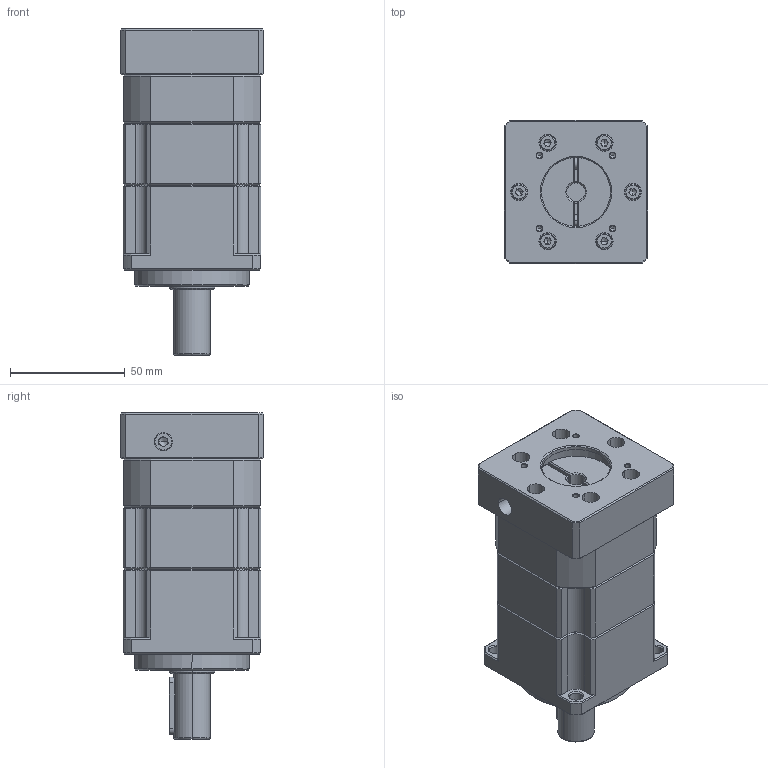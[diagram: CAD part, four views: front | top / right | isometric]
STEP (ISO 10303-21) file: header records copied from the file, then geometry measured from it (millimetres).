
FILE_DESCRIPTION (( 'STEP AP214' ), '1' );
FILE_NAME ('ZPB060-D16-L2-P1-8-30-45-M3.step', '2024-04-23T15:42:31', ( 'Windows 蚚誧' ), ( 'Organization' ), 'SwSTEP 2.0', 'SolidWorks 2016', '' );
FILE_SCHEMA (( 'AUTOMOTIVE_DESIGN' ));
Length unit declared in the file: millimetre
Products named in the file (1): ZPB060-D16-L2-P1-8-30-45-M3
Bounding box: 62.5 x 62.5 x 142 mm (x, y, z)
Volume: 336384.2 mm3; surface area: 82703.7 mm2
Topology: 17 solids, 25 shells, 2137 faces, 5915 edges, 3800 vertices
Faces by surface type: plane 1094, bspline 373, cylinder 318, cone 210, torus 96, sphere 46
Entity records: 110516 total; most frequent: CARTESIAN_POINT 35883, ORIENTED_EDGE 11490, DIRECTION 9074, EDGE_CURVE 5745, VERTEX_POINT 3731, VECTOR 3434, LINE 3434, AXIS2_PLACEMENT_3D 2820
